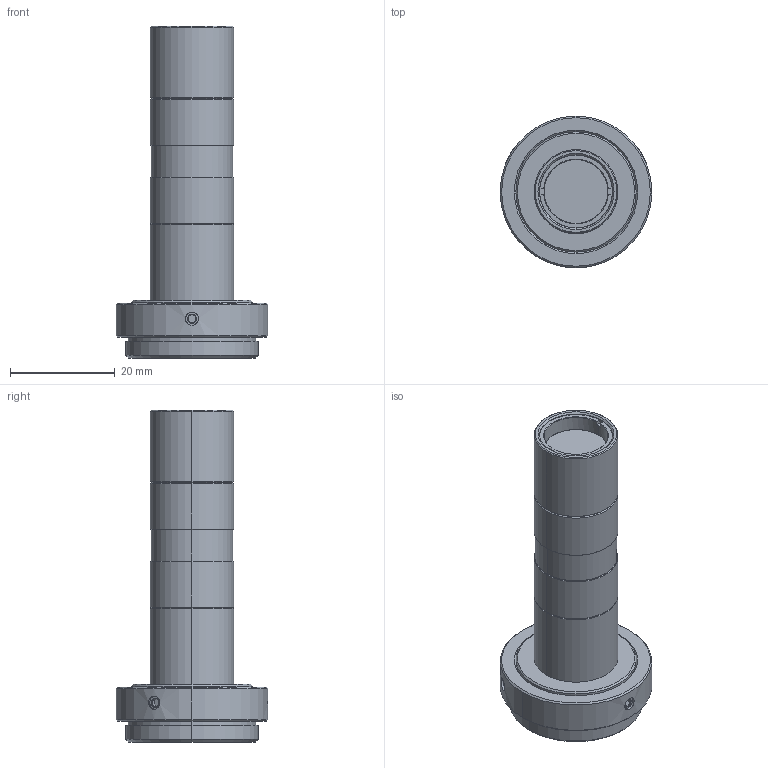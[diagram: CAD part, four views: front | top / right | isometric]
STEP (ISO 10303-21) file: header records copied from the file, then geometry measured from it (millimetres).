
FILE_DESCRIPTION (( 'STEP AP203' ), '1' );
FILE_NAME ('MML3-ST65S_A03952A0100101A-001.STEP', '2013-11-27T09:17:14', ( 'SCHOTT' ), ( 'SCHOTT' ), 'SwSTEP 2.0', 'SolidWorks 2011', '' );
FILE_SCHEMA (( 'CONFIG_CONTROL_DESIGN' ));
Length unit declared in the file: millimetre
Products named in the file (1): MML3-ST65S_A03952A0100101A-001
Bounding box: 29 x 29 x 63.46 mm (x, y, z)
Volume: 13461.8 mm3; surface area: 5836.6 mm2
Topology: 1 solids, 1 shells, 140 faces, 327 edges, 206 vertices
Faces by surface type: cone 61, plane 42, cylinder 37
Entity records: 4256 total; most frequent: CARTESIAN_POINT 965, DIRECTION 693, ORIENTED_EDGE 654, EDGE_CURVE 327, AXIS2_PLACEMENT_3D 272, VERTEX_POINT 206, EDGE_LOOP 157, LINE 149
